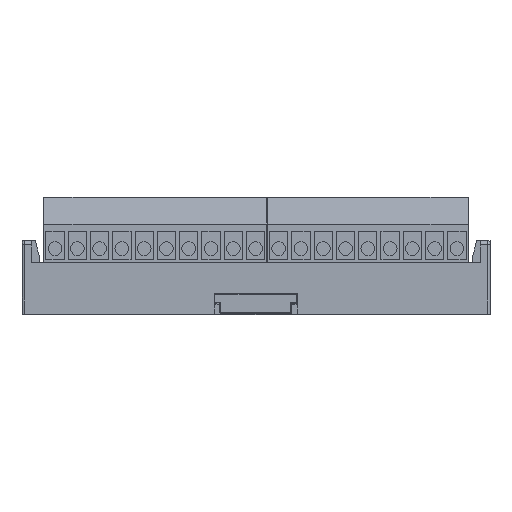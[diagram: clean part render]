
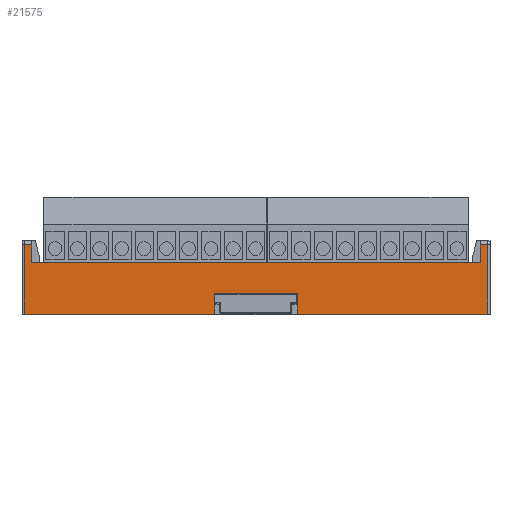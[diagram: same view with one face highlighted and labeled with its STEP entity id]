
A CAD part, top view. The second image highlights one B-rep face of the part: STEP entity #21575.
In plain terms, the highlighted planar face has unit normal (0, 0, 1).
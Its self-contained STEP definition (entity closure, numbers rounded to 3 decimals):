
#611 = VERTEX_POINT ( 'NONE', #112550 ) ;
#1009 = VERTEX_POINT ( 'NONE', #187366 ) ;
#3231 = CARTESIAN_POINT ( 'NONE',  ( 0., 2., 0. ) ) ;
#4735 = DIRECTION ( 'NONE',  ( 0., -1., 0. ) ) ;
#6848 = CARTESIAN_POINT ( 'NONE',  ( 43.25, -4.5, 0. ) ) ;
#6861 = EDGE_CURVE ( 'NONE', #147584, #119740, #85545, .T. ) ;
#7360 = CARTESIAN_POINT ( 'NONE',  ( 0.5, -4.5, 0. ) ) ;
#10267 = CARTESIAN_POINT ( 'NONE',  ( 61.75, -4.5, 0. ) ) ;
#10861 = CARTESIAN_POINT ( 'NONE',  ( 43.25, 0., 0. ) ) ;
#17177 = VECTOR ( 'NONE', #34015, 1000. ) ;
#19190 = DIRECTION ( 'NONE',  ( 0., 1., 0. ) ) ;
#19859 = DIRECTION ( 'NONE',  ( -1., 0., 0. ) ) ;
#21575 = ADVANCED_FACE ( 'NONE', ( #138296 ), #200800, .F. ) ;
#23193 = EDGE_CURVE ( 'NONE', #79349, #186916, #132190, .T. ) ;
#29342 = EDGE_LOOP ( 'NONE', ( #179527, #134301, #71331, #49513, #136989, #32796, #58184, #107168, #142580, #204918, #176441, #38013 ) ) ;
#32796 = ORIENTED_EDGE ( 'NONE', *, *, #6861, .F. ) ;
#34015 = DIRECTION ( 'NONE',  ( 1., 0., 0. ) ) ;
#38013 = ORIENTED_EDGE ( 'NONE', *, *, #43654, .F. ) ;
#39264 = EDGE_CURVE ( 'NONE', #103412, #1009, #105009, .T. ) ;
#40274 = EDGE_CURVE ( 'NONE', #42476, #1009, #148062, .T. ) ;
#41577 = VECTOR ( 'NONE', #19190, 1000. ) ;
#42476 = VERTEX_POINT ( 'NONE', #197615 ) ;
#43654 = EDGE_CURVE ( 'NONE', #96279, #103412, #44133, .T. ) ;
#44133 = LINE ( 'NONE', #160130, #136932 ) ;
#49513 = ORIENTED_EDGE ( 'NONE', *, *, #23193, .T. ) ;
#56597 = LINE ( 'NONE', #154483, #138941 ) ;
#58184 = ORIENTED_EDGE ( 'NONE', *, *, #80950, .T. ) ;
#60133 = CARTESIAN_POINT ( 'NONE',  ( 43.25, -4.5, 0. ) ) ;
#61559 = DIRECTION ( 'NONE',  ( 0., -1., 0. ) ) ;
#64244 = VECTOR ( 'NONE', #70550, 1000. ) ;
#67911 = EDGE_CURVE ( 'NONE', #116242, #156472, #213373, .T. ) ;
#70550 = DIRECTION ( 'NONE',  ( 1., 0., 0. ) ) ;
#71331 = ORIENTED_EDGE ( 'NONE', *, *, #83359, .F. ) ;
#74465 = EDGE_CURVE ( 'NONE', #96279, #116242, #186289, .T. ) ;
#79349 = VERTEX_POINT ( 'NONE', #6848 ) ;
#80950 = EDGE_CURVE ( 'NONE', #147584, #172983, #195665, .T. ) ;
#83359 = EDGE_CURVE ( 'NONE', #79349, #156472, #160895, .T. ) ;
#85545 = LINE ( 'NONE', #182824, #41577 ) ;
#94362 = CARTESIAN_POINT ( 'NONE',  ( 0.5, 11., 0. ) ) ;
#96279 = VERTEX_POINT ( 'NONE', #133646 ) ;
#96346 = DIRECTION ( 'NONE',  ( 0., -1., 0. ) ) ;
#98597 = DIRECTION ( 'NONE',  ( 0., 1., 0. ) ) ;
#98666 = VECTOR ( 'NONE', #137175, 1000. ) ;
#103412 = VERTEX_POINT ( 'NONE', #152104 ) ;
#105009 = LINE ( 'NONE', #149309, #17177 ) ;
#106907 = VECTOR ( 'NONE', #109855, 1000. ) ;
#107168 = ORIENTED_EDGE ( 'NONE', *, *, #203337, .T. ) ;
#109855 = DIRECTION ( 'NONE',  ( -1., 0., 0. ) ) ;
#112550 = CARTESIAN_POINT ( 'NONE',  ( 104.5, 11., 0. ) ) ;
#116242 = VERTEX_POINT ( 'NONE', #94362 ) ;
#118611 = DIRECTION ( 'NONE',  ( 0., 0., -1. ) ) ;
#119740 = VERTEX_POINT ( 'NONE', #205270 ) ;
#120680 = CARTESIAN_POINT ( 'NONE',  ( 0., 11., 0. ) ) ;
#121962 = CARTESIAN_POINT ( 'NONE',  ( 104.5, 2., 0. ) ) ;
#132190 = LINE ( 'NONE', #213757, #155376 ) ;
#133646 = CARTESIAN_POINT ( 'NONE',  ( 2.2, 11., 0. ) ) ;
#134301 = ORIENTED_EDGE ( 'NONE', *, *, #67911, .T. ) ;
#135913 = EDGE_CURVE ( 'NONE', #186916, #119740, #56597, .T. ) ;
#136505 = AXIS2_PLACEMENT_3D ( 'NONE', #3231, #118611, #19859 ) ;
#136932 = VECTOR ( 'NONE', #61559, 1000. ) ;
#136989 = ORIENTED_EDGE ( 'NONE', *, *, #135913, .T. ) ;
#137175 = DIRECTION ( 'NONE',  ( -1., 0., 0. ) ) ;
#138296 = FACE_OUTER_BOUND ( 'NONE', #29342, .T. ) ;
#138941 = VECTOR ( 'NONE', #170987, 1000. ) ;
#142580 = ORIENTED_EDGE ( 'NONE', *, *, #185695, .T. ) ;
#143528 = VECTOR ( 'NONE', #169952, 1000. ) ;
#147584 = VERTEX_POINT ( 'NONE', #10267 ) ;
#148062 = LINE ( 'NONE', #195036, #153319 ) ;
#149309 = CARTESIAN_POINT ( 'NONE',  ( 2.2, 7., 0. ) ) ;
#150509 = CARTESIAN_POINT ( 'NONE',  ( 104.5, -4.5, 0. ) ) ;
#152104 = CARTESIAN_POINT ( 'NONE',  ( 2.2, 7., 0. ) ) ;
#152546 = CARTESIAN_POINT ( 'NONE',  ( 0.5, 2., 0. ) ) ;
#152741 = CARTESIAN_POINT ( 'NONE',  ( 102.8, 11., 0. ) ) ;
#153309 = CARTESIAN_POINT ( 'NONE',  ( 61.75, -4.5, 0. ) ) ;
#153319 = VECTOR ( 'NONE', #96346, 1000. ) ;
#154483 = CARTESIAN_POINT ( 'NONE',  ( 0., 0., 0. ) ) ;
#155116 = DIRECTION ( 'NONE',  ( 0., 1., 0. ) ) ;
#155376 = VECTOR ( 'NONE', #98597, 1000. ) ;
#156472 = VERTEX_POINT ( 'NONE', #7360 ) ;
#159406 = VECTOR ( 'NONE', #155116, 1000. ) ;
#160130 = CARTESIAN_POINT ( 'NONE',  ( 2.2, 12., 0. ) ) ;
#160895 = LINE ( 'NONE', #60133, #106907 ) ;
#164583 = LINE ( 'NONE', #121962, #159406 ) ;
#169528 = VECTOR ( 'NONE', #4735, 1000. ) ;
#169952 = DIRECTION ( 'NONE',  ( -1., 0., 0. ) ) ;
#170987 = DIRECTION ( 'NONE',  ( 1., 0., 0. ) ) ;
#172983 = VERTEX_POINT ( 'NONE', #150509 ) ;
#176441 = ORIENTED_EDGE ( 'NONE', *, *, #39264, .F. ) ;
#179527 = ORIENTED_EDGE ( 'NONE', *, *, #74465, .T. ) ;
#182824 = CARTESIAN_POINT ( 'NONE',  ( 61.75, -4.5, 0. ) ) ;
#185695 = EDGE_CURVE ( 'NONE', #611, #42476, #187512, .T. ) ;
#186289 = LINE ( 'NONE', #120680, #98666 ) ;
#186916 = VERTEX_POINT ( 'NONE', #10861 ) ;
#187366 = CARTESIAN_POINT ( 'NONE',  ( 102.8, 7., 0. ) ) ;
#187512 = LINE ( 'NONE', #152741, #143528 ) ;
#195036 = CARTESIAN_POINT ( 'NONE',  ( 102.8, 12., 0. ) ) ;
#195665 = LINE ( 'NONE', #153309, #64244 ) ;
#197615 = CARTESIAN_POINT ( 'NONE',  ( 102.8, 11., 0. ) ) ;
#200800 = PLANE ( 'NONE',  #136505 ) ;
#203337 = EDGE_CURVE ( 'NONE', #172983, #611, #164583, .T. ) ;
#204918 = ORIENTED_EDGE ( 'NONE', *, *, #40274, .T. ) ;
#205270 = CARTESIAN_POINT ( 'NONE',  ( 61.75, 0., 0. ) ) ;
#213373 = LINE ( 'NONE', #152546, #169528 ) ;
#213757 = CARTESIAN_POINT ( 'NONE',  ( 43.25, -4.5, 0. ) ) ;
